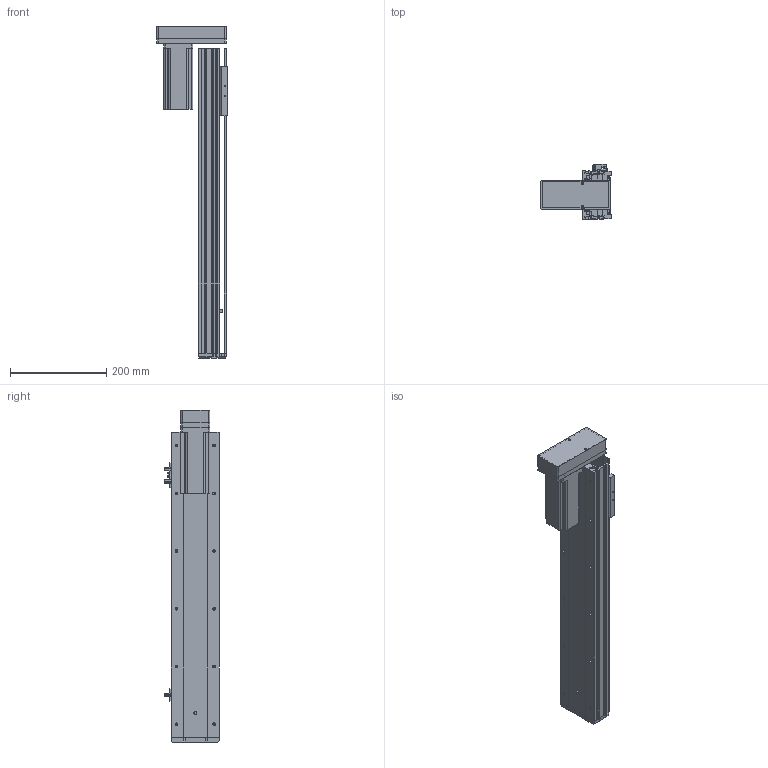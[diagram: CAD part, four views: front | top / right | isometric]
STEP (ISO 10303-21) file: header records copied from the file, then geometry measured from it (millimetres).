
FILE_DESCRIPTION (( 'STEP AP214' ), '1' );
FILE_NAME ('KSD100S-S450-MD-CM.STEP', '2019-08-30T03:23:27', ( '微软用户' ), ( '微软中国' ), 'SwSTEP 2.0', 'SolidWorks 2014', '' );
FILE_SCHEMA (( 'AUTOMOTIVE_DESIGN' ));
Length unit declared in the file: millimetre
Products named in the file (10): 100宽滚珠螺姆安装板半封闭; 100遵傷啣; 100宽底板半封闭丝杆450行程; KSD100S-S450-MD-CM; 悵誘欶奻狟殏; 100宽马达安装板连板上下折丝杆同步带; 台达ECMA－C20604AS伺服电机; 覜茼え100遵圉猾敕; U倰嫖萇EEㄜSX672; 100宽防尘板丝杆450行程
Assembly tree (11 placements, depth 2):
  KSD100S-S450-MD-CM
    100宽底板半封闭丝杆450行程
    100遵傷啣
    100宽滚珠螺姆安装板半封闭
    100宽防尘板丝杆450行程
    U倰嫖萇EEㄜSX672  x3
    覜茼え100遵圉猾敕
    台达ECMA－C20604AS伺服电机
    100宽马达安装板连板上下折丝杆同步带
    悵誘欶奻狟殏
Bounding box: 147 x 113.7 x 690.5 mm (x, y, z)
Volume: 1842528.9 mm3; surface area: 568640.1 mm2
Topology: 12 solids, 12 shells, 1115 faces, 3148 edges, 2004 vertices
Faces by surface type: cylinder 523, plane 483, cone 109
Entity records: 39004 total; most frequent: CARTESIAN_POINT 7243, DIRECTION 5145, ORIENTED_EDGE 4984, EDGE_CURVE 2492, AXIS2_PLACEMENT_3D 1846, VERTEX_POINT 1628, LINE 1453, VECTOR 1453
